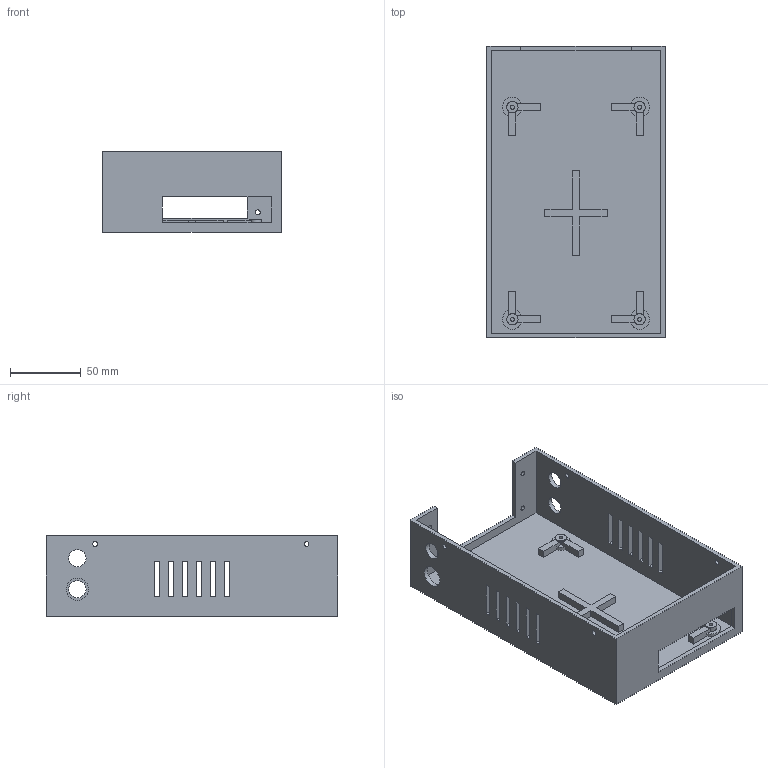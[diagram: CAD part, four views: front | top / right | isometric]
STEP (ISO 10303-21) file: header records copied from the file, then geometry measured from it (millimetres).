
FILE_DESCRIPTION(('Open CASCADE Model'),'2;1');
FILE_NAME('Open CASCADE Shape Model','2026-07-27T17:33:14',('Author'),( 'Open CASCADE'),'Open CASCADE STEP processor 7.9','Open CASCADE 7.9' ,'Unknown');
FILE_SCHEMA(('AUTOMOTIVE_DESIGN { 1 0 10303 214 1 1 1 1 }'));
Length unit declared in the file: millimetre
Products named in the file (1): Open CASCADE STEP translator 7.9 1
Bounding box: 126 x 206 x 56.8 mm (x, y, z)
Volume: 180922.9 mm3; surface area: 117631.7 mm2
Topology: 1 solids, 1 shells, 155 faces, 432 edges, 288 vertices
Faces by surface type: plane 127, cylinder 28
Full cylindrical faces by diameter (mm): 2.8 x4, 3.4 x8, 8 x4, 12.2 x3, 15.6 x1
Entity records: 10458 total; most frequent: CARTESIAN_POINT 2306, DIRECTION 1314, ORIENTED_EDGE 864, PCURVE 864, DEFINITIONAL_REPRESENTATION 864, LINE 826, VECTOR 826, EDGE_CURVE 432
